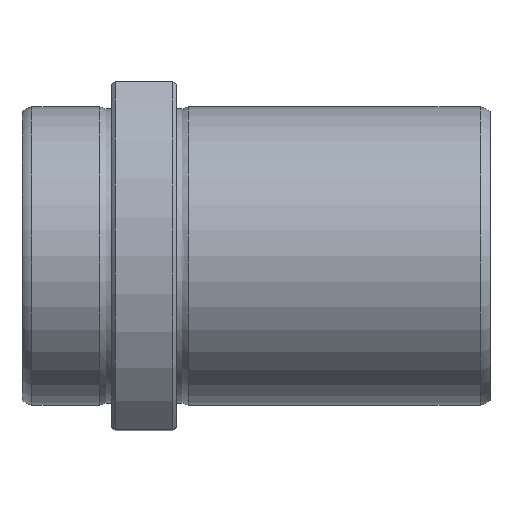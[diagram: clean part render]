
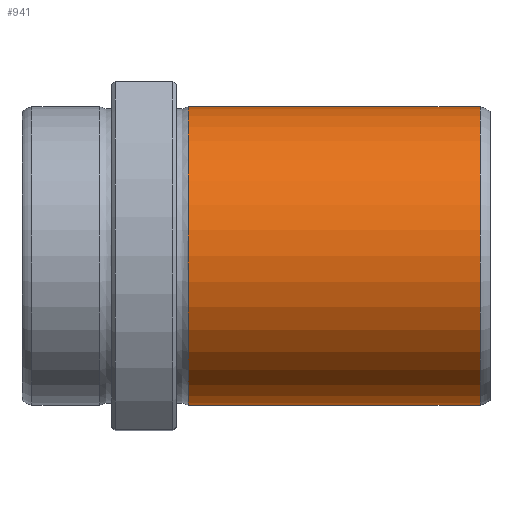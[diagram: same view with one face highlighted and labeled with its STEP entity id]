
A CAD part, top view. The second image highlights one B-rep face of the part: STEP entity #941.
In plain terms, the highlighted cylindrical face has radius 30 mm (diameter 60 mm), a full revolution.
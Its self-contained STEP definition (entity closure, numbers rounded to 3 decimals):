
#907=CARTESIAN_POINT('',(92.016,0.0,30.));
#908=VERTEX_POINT('',#907);
#909=CARTESIAN_POINT('',(92.016,0.0,0.0));
#910=DIRECTION('',(-1.0,0.0,0.0));
#911=DIRECTION('',(0.0,0.0,1.0));
#912=AXIS2_PLACEMENT_3D('',#909,#910,#911);
#913=CIRCLE('',#912,30.);
#914=EDGE_CURVE('',#908,#908,#913,.T.);
#922=CARTESIAN_POINT('',(62.708,0.0,0.0));
#923=DIRECTION('',(-1.0,0.0,0.0));
#924=DIRECTION('',(0.0,0.0,1.0));
#925=AXIS2_PLACEMENT_3D('',#922,#923,#924);
#926=CYLINDRICAL_SURFACE('',#925,30.);
#927=CARTESIAN_POINT('',(33.4,0.0,30.));
#928=VERTEX_POINT('',#927);
#929=CARTESIAN_POINT('',(33.4,0.0,0.0));
#930=DIRECTION('',(-1.0,0.0,0.0));
#931=DIRECTION('',(0.0,0.0,1.0));
#932=AXIS2_PLACEMENT_3D('',#929,#930,#931);
#933=CIRCLE('',#932,30.);
#934=EDGE_CURVE('',#928,#928,#933,.T.);
#935=ORIENTED_EDGE('',*,*,#934,.F.);
#936=EDGE_LOOP('',(#935));
#937=FACE_OUTER_BOUND('',#936,.T.);
#938=ORIENTED_EDGE('',*,*,#914,.T.);
#939=EDGE_LOOP('',(#938));
#940=FACE_BOUND('',#939,.T.);
#941=ADVANCED_FACE('',(#937,#940),#926,.T.);
